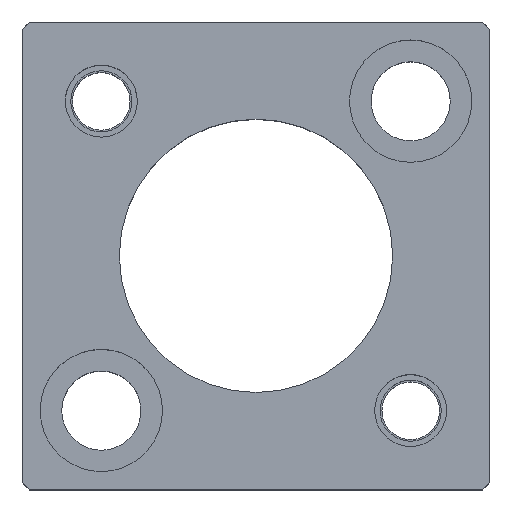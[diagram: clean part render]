
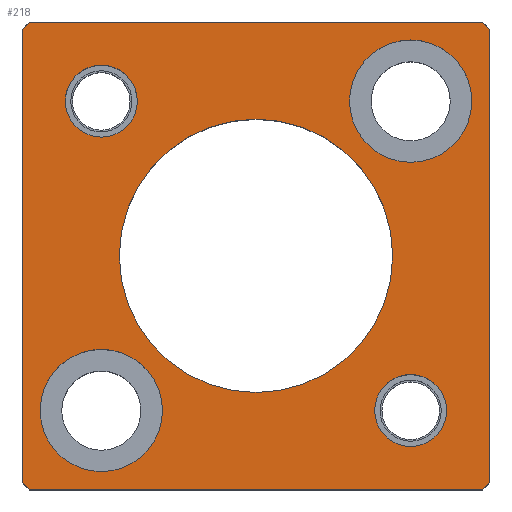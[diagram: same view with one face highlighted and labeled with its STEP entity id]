
A CAD part, top view. The second image highlights one B-rep face of the part: STEP entity #218.
In plain terms, the highlighted planar face has unit normal (0, 0, 1).
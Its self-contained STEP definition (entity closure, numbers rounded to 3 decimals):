
#104=FACE_BOUND('',#328,.T.);
#105=FACE_BOUND('',#329,.T.);
#106=FACE_BOUND('',#330,.T.);
#107=FACE_BOUND('',#331,.T.);
#108=FACE_BOUND('',#332,.T.);
#109=FACE_BOUND('',#333,.T.);
#155=CIRCLE('',#949,8.5);
#157=CIRCLE('',#952,8.5);
#159=CIRCLE('',#956,8.5);
#161=CIRCLE('',#959,8.5);
#163=CIRCLE('',#963,5.);
#164=CIRCLE('',#964,5.);
#165=CIRCLE('',#965,5.);
#166=CIRCLE('',#966,5.);
#167=CIRCLE('',#967,19.);
#168=CIRCLE('',#968,19.);
#218=ADVANCED_FACE('',(#104,#105,#106,#107,#108,#109),#257,.T.);
#257=PLANE('',#969);
#328=EDGE_LOOP('',(#467,#468,#469,#470,#471,#472,#473,#474));
#329=EDGE_LOOP('',(#475,#476));
#330=EDGE_LOOP('',(#477,#478));
#331=EDGE_LOOP('',(#479,#480));
#332=EDGE_LOOP('',(#481,#482));
#333=EDGE_LOOP('',(#483,#484));
#467=ORIENTED_EDGE('',*,*,#692,.T.);
#468=ORIENTED_EDGE('',*,*,#689,.T.);
#469=ORIENTED_EDGE('',*,*,#707,.T.);
#470=ORIENTED_EDGE('',*,*,#704,.T.);
#471=ORIENTED_EDGE('',*,*,#701,.T.);
#472=ORIENTED_EDGE('',*,*,#685,.T.);
#473=ORIENTED_EDGE('',*,*,#682,.T.);
#474=ORIENTED_EDGE('',*,*,#678,.T.);
#475=ORIENTED_EDGE('',*,*,#736,.F.);
#476=ORIENTED_EDGE('',*,*,#737,.F.);
#477=ORIENTED_EDGE('',*,*,#738,.F.);
#478=ORIENTED_EDGE('',*,*,#739,.F.);
#479=ORIENTED_EDGE('',*,*,#734,.F.);
#480=ORIENTED_EDGE('',*,*,#730,.F.);
#481=ORIENTED_EDGE('',*,*,#728,.F.);
#482=ORIENTED_EDGE('',*,*,#724,.F.);
#483=ORIENTED_EDGE('',*,*,#740,.T.);
#484=ORIENTED_EDGE('',*,*,#741,.T.);
#601=VERTEX_POINT('',#1286);
#602=VERTEX_POINT('',#1288);
#605=VERTEX_POINT('',#1296);
#607=VERTEX_POINT('',#1302);
#610=VERTEX_POINT('',#1309);
#611=VERTEX_POINT('',#1311);
#618=VERTEX_POINT('',#1334);
#620=VERTEX_POINT('',#1340);
#631=VERTEX_POINT('',#1379);
#632=VERTEX_POINT('',#1380);
#635=VERTEX_POINT('',#1392);
#636=VERTEX_POINT('',#1393);
#639=VERTEX_POINT('',#1405);
#640=VERTEX_POINT('',#1406);
#641=VERTEX_POINT('',#1409);
#642=VERTEX_POINT('',#1410);
#643=VERTEX_POINT('',#1413);
#644=VERTEX_POINT('',#1414);
#678=EDGE_CURVE('',#602,#601,#794,.T.);
#682=EDGE_CURVE('',#605,#602,#798,.T.);
#685=EDGE_CURVE('',#607,#605,#801,.T.);
#689=EDGE_CURVE('',#611,#610,#805,.T.);
#692=EDGE_CURVE('',#601,#611,#808,.T.);
#701=EDGE_CURVE('',#618,#607,#817,.T.);
#704=EDGE_CURVE('',#620,#618,#820,.T.);
#707=EDGE_CURVE('',#610,#620,#823,.T.);
#724=EDGE_CURVE('',#631,#632,#155,.T.);
#728=EDGE_CURVE('',#632,#631,#157,.T.);
#730=EDGE_CURVE('',#635,#636,#159,.T.);
#734=EDGE_CURVE('',#636,#635,#161,.T.);
#736=EDGE_CURVE('',#639,#640,#163,.T.);
#737=EDGE_CURVE('',#640,#639,#164,.T.);
#738=EDGE_CURVE('',#641,#642,#165,.T.);
#739=EDGE_CURVE('',#642,#641,#166,.T.);
#740=EDGE_CURVE('',#643,#644,#167,.T.);
#741=EDGE_CURVE('',#644,#643,#168,.T.);
#794=LINE('',#1287,#860);
#798=LINE('',#1295,#864);
#801=LINE('',#1301,#867);
#805=LINE('',#1310,#871);
#808=LINE('',#1316,#874);
#817=LINE('',#1333,#883);
#820=LINE('',#1339,#886);
#823=LINE('',#1345,#889);
#860=VECTOR('',#1025,1.);
#864=VECTOR('',#1031,1.);
#867=VECTOR('',#1036,1.);
#871=VECTOR('',#1042,1.);
#874=VECTOR('',#1047,1.);
#883=VECTOR('',#1062,1.);
#886=VECTOR('',#1067,1.);
#889=VECTOR('',#1072,1.);
#949=AXIS2_PLACEMENT_3D('',#1378,#1111,#1112);
#952=AXIS2_PLACEMENT_3D('',#1387,#1119,#1120);
#956=AXIS2_PLACEMENT_3D('',#1391,#1127,#1128);
#959=AXIS2_PLACEMENT_3D('',#1400,#1135,#1136);
#963=AXIS2_PLACEMENT_3D('',#1404,#1143,#1144);
#964=AXIS2_PLACEMENT_3D('',#1407,#1145,#1146);
#965=AXIS2_PLACEMENT_3D('',#1408,#1147,#1148);
#966=AXIS2_PLACEMENT_3D('',#1411,#1149,#1150);
#967=AXIS2_PLACEMENT_3D('',#1412,#1151,#1152);
#968=AXIS2_PLACEMENT_3D('',#1415,#1153,#1154);
#969=AXIS2_PLACEMENT_3D('',#1416,#1155,#1156);
#1025=DIRECTION('',(1.,0.,0.));
#1031=DIRECTION('',(0.707,-0.707,0.));
#1036=DIRECTION('',(0.,-1.,0.));
#1042=DIRECTION('',(0.,1.,0.));
#1047=DIRECTION('',(0.707,0.707,0.));
#1062=DIRECTION('',(-0.707,-0.707,0.));
#1067=DIRECTION('',(-1.,0.,0.));
#1072=DIRECTION('',(-0.707,0.707,0.));
#1111=DIRECTION('',(0.,0.,1.));
#1112=DIRECTION('',(-1.,0.,0.));
#1119=DIRECTION('',(0.,0.,1.));
#1120=DIRECTION('',(1.,0.,0.));
#1127=DIRECTION('',(0.,0.,1.));
#1128=DIRECTION('',(-1.,0.,0.));
#1135=DIRECTION('',(0.,0.,1.));
#1136=DIRECTION('',(1.,0.,0.));
#1143=DIRECTION('',(0.,0.,1.));
#1144=DIRECTION('',(1.,0.,0.));
#1145=DIRECTION('',(0.,0.,1.));
#1146=DIRECTION('',(-1.,0.,0.));
#1147=DIRECTION('',(0.,0.,1.));
#1148=DIRECTION('',(1.,0.,0.));
#1149=DIRECTION('',(0.,0.,1.));
#1150=DIRECTION('',(-1.,0.,0.));
#1151=DIRECTION('',(0.,0.,-1.));
#1152=DIRECTION('',(-1.,0.,0.));
#1153=DIRECTION('',(0.,0.,-1.));
#1154=DIRECTION('',(1.,0.,0.));
#1155=DIRECTION('',(0.,0.,1.));
#1156=DIRECTION('',(-1.,0.,0.));
#1286=CARTESIAN_POINT('',(31.5,-32.5,30.));
#1287=CARTESIAN_POINT('',(-31.5,-32.5,30.));
#1288=CARTESIAN_POINT('',(-31.5,-32.5,30.));
#1295=CARTESIAN_POINT('',(-31.5,-32.5,30.));
#1296=CARTESIAN_POINT('',(-32.5,-31.5,30.));
#1301=CARTESIAN_POINT('',(-32.5,31.5,30.));
#1302=CARTESIAN_POINT('',(-32.5,31.5,30.));
#1309=CARTESIAN_POINT('',(32.5,31.5,30.));
#1310=CARTESIAN_POINT('',(32.5,31.5,30.));
#1311=CARTESIAN_POINT('',(32.5,-31.5,30.));
#1316=CARTESIAN_POINT('',(32.5,-31.5,30.));
#1333=CARTESIAN_POINT('',(-32.5,31.5,30.));
#1334=CARTESIAN_POINT('',(-31.5,32.5,30.));
#1339=CARTESIAN_POINT('',(-31.5,32.5,30.));
#1340=CARTESIAN_POINT('',(31.5,32.5,30.));
#1345=CARTESIAN_POINT('',(31.5,32.5,30.));
#1378=CARTESIAN_POINT('',(-21.5,-21.5,30.));
#1379=CARTESIAN_POINT('',(-21.5,-30.,30.));
#1380=CARTESIAN_POINT('',(-21.5,-13.,30.));
#1387=CARTESIAN_POINT('',(-21.5,-21.5,30.));
#1391=CARTESIAN_POINT('',(21.5,21.5,30.));
#1392=CARTESIAN_POINT('',(21.5,13.,30.));
#1393=CARTESIAN_POINT('',(21.5,30.,30.));
#1400=CARTESIAN_POINT('',(21.5,21.5,30.));
#1404=CARTESIAN_POINT('',(-21.5,21.5,30.));
#1405=CARTESIAN_POINT('',(-21.5,26.5,30.));
#1406=CARTESIAN_POINT('',(-21.5,16.5,30.));
#1407=CARTESIAN_POINT('',(-21.5,21.5,30.));
#1408=CARTESIAN_POINT('',(21.5,-21.5,30.));
#1409=CARTESIAN_POINT('',(21.5,-16.5,30.));
#1410=CARTESIAN_POINT('',(21.5,-26.5,30.));
#1411=CARTESIAN_POINT('',(21.5,-21.5,30.));
#1412=CARTESIAN_POINT('',(0.,0.,30.));
#1413=CARTESIAN_POINT('',(0.,19.,30.));
#1414=CARTESIAN_POINT('',(0.,-19.,30.));
#1415=CARTESIAN_POINT('',(0.,0.,30.));
#1416=CARTESIAN_POINT('',(31.5,-32.5,30.));
